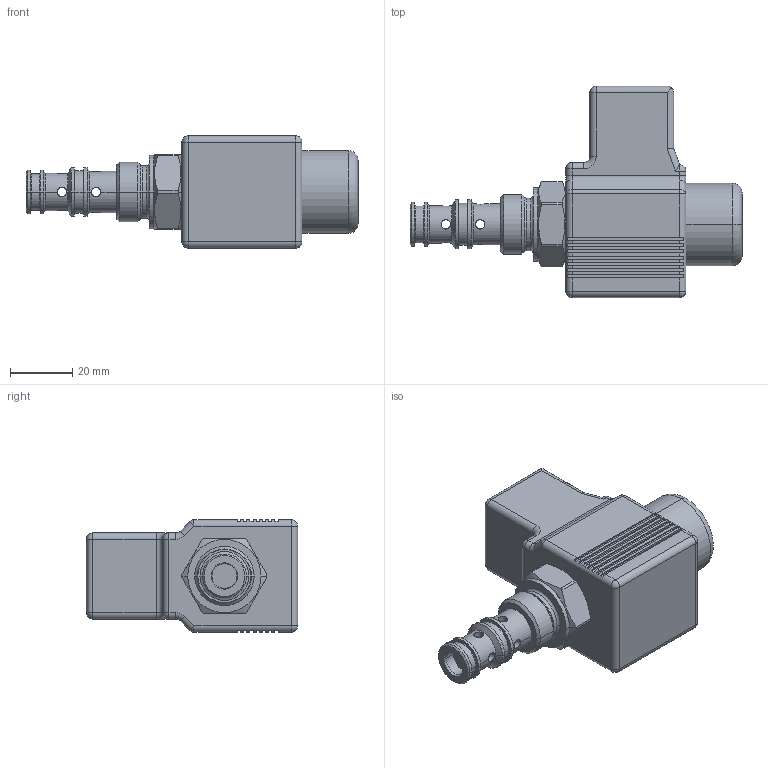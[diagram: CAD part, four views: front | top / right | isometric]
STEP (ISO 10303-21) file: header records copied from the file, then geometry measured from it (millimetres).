
FILE_DESCRIPTION((''),'2;1');
FILE_NAME('SD2E_A3_S','2011-03-14T',('tvatras'),(''),'PRO/ENGINEER BY PARAMETRIC TECHNOLOGY CORPORATION, 2010180','PRO/ENGINEER BY PARAMETRIC TECHNOLOGY CORPORATION, 2010180','');
FILE_SCHEMA(('CONFIG_CONTROL_DESIGN'));
Length unit declared in the file: millimetre
Products named in the file (1): SD2E_A3_S
Bounding box: 106.5 x 67.8 x 36 mm (x, y, z)
Volume: 90027.9 mm3; surface area: 19212.3 mm2
Topology: 1 solids, 5 shells, 243 faces, 596 edges, 349 vertices
Faces by surface type: cylinder 95, plane 92, torus 20, cone 20, sphere 14, extrusion 2
Entity records: 7490 total; most frequent: CARTESIAN_POINT 1706, DIRECTION 1280, ORIENTED_EDGE 1150, EDGE_CURVE 579, AXIS2_PLACEMENT_3D 501, VERTEX_POINT 347, VECTOR 278, LINE 276
